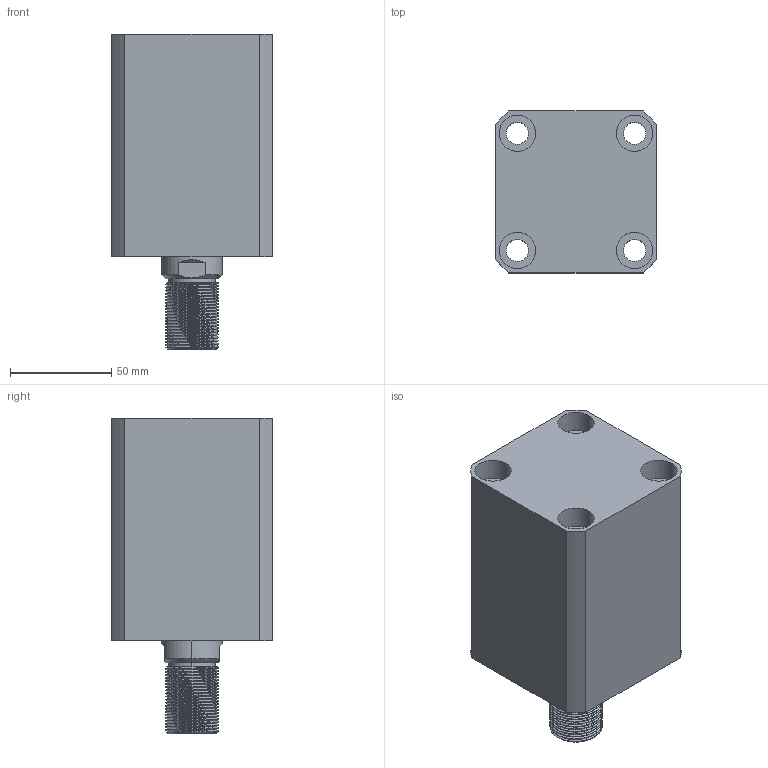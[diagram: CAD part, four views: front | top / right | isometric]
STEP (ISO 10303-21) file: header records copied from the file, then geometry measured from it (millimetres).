
FILE_DESCRIPTION (( 'STEP AP203' ), '1' );
FILE_NAME ('CHTB-SD50-50W.STEP', '2018-05-18T12:45:25', ( '' ), ( '' ), 'SwSTEP 2.0', 'SolidWorks 2015', '' );
FILE_SCHEMA (( 'CONFIG_CONTROL_DESIGN' ));
Length unit declared in the file: millimetre
Products named in the file (4): CHTB-SD50-50W; 掛极SD50-50W; CHTM-SD50QG; 活塞杆SD50-50W
Assembly tree (3 placements, depth 2):
  CHTB-SD50-50W
    掛极SD50-50W
    CHTM-SD50QG
    活塞杆SD50-50W
Bounding box: 80 x 80 x 156 mm (x, y, z)
Volume: 593678.8 mm3; surface area: 116367.8 mm2
Topology: 3 solids, 3 shells, 236 faces, 627 edges, 419 vertices
Faces by surface type: cylinder 144, plane 41, cone 19, bspline 16, torus 16
Entity records: 14613 total; most frequent: CARTESIAN_POINT 8784, ORIENTED_EDGE 1246, DIRECTION 1029, EDGE_CURVE 623, AXIS2_PLACEMENT_3D 422, VERTEX_POINT 419, EDGE_LOOP 276, FACE_OUTER_BOUND 236
